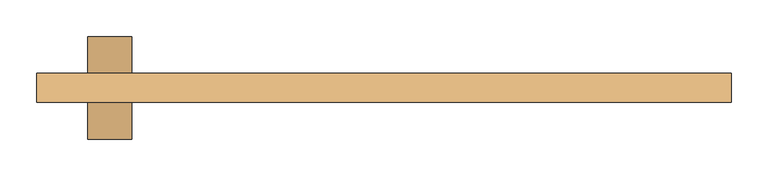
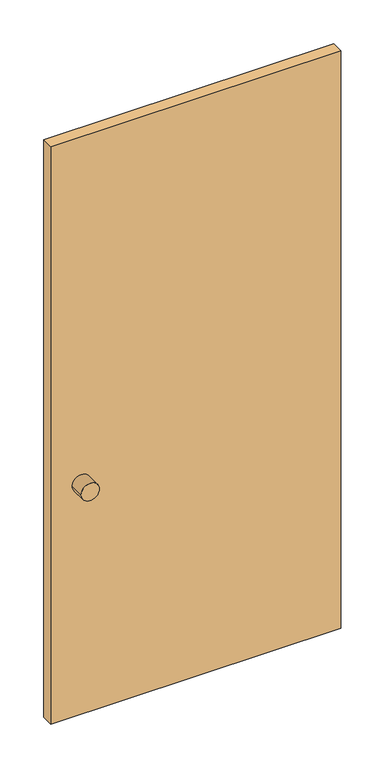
"""IFC4 building model written with IfcOpenShell, lengths in millimetres: door geometry, 営_片開き扉 : LD3 950*2000."""

import ifcopenshell
import ifcopenshell.guid

model = None  # the IFC model being written
_history = None  # IfcOwnerHistory: only IFC2X3 demands one
_inside = {}  # id of a spatial element -> (the spatial element, [elements in it])
_under = {}  # id of a project, library or spatial element -> (it, [spatial elements below it])
_declared = {}  # id of a project -> (the project, [libraries it declares])
_typed = {}  # id of a type object -> (the type object, [elements of that type])
_made_of = {}  # id of a material, layer set ... -> (it, [elements and type objects made of it])


def new_model(schema):
    """Start an empty IFC model of exactly this schema.

    Asked for "IFC4X3", IfcOpenShell would pick the latest addendum, in which some entities
    have other attributes; the version numbers below select the first issue.
    IFC2X3 requires an IfcOwnerHistory on every rooted entity: one is made here for all.
    """
    global model, _history
    if schema == "IFC4X3":
        model = ifcopenshell.file(schema_version=(4, 3, 0, 0))
    else:
        model = ifcopenshell.file(schema=schema)
    _inside.clear()
    _under.clear()
    _declared.clear()
    _typed.clear()
    _made_of.clear()
    _history = None
    if model.schema == "IFC2X3":
        org = make("IfcOrganization", Name="unknown")
        user = make(
            "IfcPersonAndOrganization",
            ThePerson=make("IfcPerson", FamilyName="unknown"),
            TheOrganization=org,
        )
        app = make(
            "IfcApplication",
            ApplicationDeveloper=org,
            Version="unknown",
            ApplicationFullName="unknown",
            ApplicationIdentifier="unknown",
        )
        _history = make(
            "IfcOwnerHistory",
            OwningUser=user,
            OwningApplication=app,
            ChangeAction="ADDED",
            CreationDate=0,
        )
    return model


def make(cls, **values):
    """One entity of the class cls with the attributes given. An attribute that is None is left unset."""
    return model.create_entity(
        cls, **{name: value for name, value in values.items() if value is not None}
    )


def rooted(cls, **values):
    """An entity with a GlobalId (a new one), such as an element, a storey or a relation."""
    return make(cls, GlobalId=ifcopenshell.guid.new(), OwnerHistory=_history, **values)


def si_unit(unit_type, name, prefix=None):
    """IfcSIUnit, for example si_unit("LENGTHUNIT", "METRE", prefix="MILLI")."""
    return make("IfcSIUnit", UnitType=unit_type, Prefix=prefix, Name=name)


def assignment(units):
    """IfcUnitAssignment: the units of a project."""
    return None if units is None else make("IfcUnitAssignment", Units=units)


def point(xyz):
    """IfcCartesianPoint."""
    return None if xyz is None else make("IfcCartesianPoint", Coordinates=xyz)


def direction(xyz):
    """IfcDirection."""
    return None if xyz is None else make("IfcDirection", DirectionRatios=xyz)


def frame(location, z_axis=None, x_axis=None):
    """IfcAxis2Placement3D, a coordinate frame: its origin and axes. An axis left out is left unset."""
    return make(
        "IfcAxis2Placement3D",
        Location=point(location),
        Axis=direction(z_axis),
        RefDirection=direction(x_axis),
    )


def frame_2d(location, x_axis=None):
    """IfcAxis2Placement2D, a coordinate frame in the plane: its origin and x axis."""
    return make(
        "IfcAxis2Placement2D", Location=point(location), RefDirection=direction(x_axis)
    )


def origin():
    """The frame at (0, 0, 0) with its axes left unset."""
    return frame((0.0, 0.0, 0.0))


def origin_with_axes():
    """The frame at (0, 0, 0) with the z axis (0, 0, 1) and the x axis (1, 0, 0) written out."""
    return frame((0.0, 0.0, 0.0), z_axis=(0.0, 0.0, 1.0), x_axis=(1.0, 0.0, 0.0))


def place(relative_to, where):
    """IfcLocalPlacement: puts the frame where relative to a parent placement (None: the world)."""
    return make(
        "IfcLocalPlacement", PlacementRelTo=relative_to, RelativePlacement=where
    )


def context(
    kind, dimensions, precision=None, world=None, true_north=None, identifier=None
):
    """IfcGeometricRepresentationContext, for example the 3D "Model" context."""
    return make(
        "IfcGeometricRepresentationContext",
        ContextIdentifier=identifier,
        ContextType=kind,
        CoordinateSpaceDimension=dimensions,
        Precision=precision,
        WorldCoordinateSystem=world,
        TrueNorth=true_north,
    )


def project(units=None, contexts=None):
    """IfcProject with its units and contexts."""
    return rooted(
        "IfcProject",
        Name="project",
        RepresentationContexts=contexts,
        UnitsInContext=assignment(units),
    )


def spatial(cls, under=None, at=None, **own):
    """A site, building, storey or space (cls), placed at a placement, below another one or the project."""
    s = rooted(cls, ObjectPlacement=at, **own)
    if under is not None:
        _under.setdefault(under.id(), (under, []))[1].append(s)
    return s


def polyline(points):
    """IfcPolyline through the points."""
    return make("IfcPolyline", Points=[point(p) for p in points])


def circle_curve(where, radius):
    """IfcCircle in the frame where."""
    return make("IfcCircle", Position=where, Radius=radius)


def trimmed(basis, trim1, trim2, sense, master):
    """IfcTrimmedCurve: the piece of a basis curve between two trims."""
    return make(
        "IfcTrimmedCurve",
        BasisCurve=basis,
        Trim1=trim1,
        Trim2=trim2,
        SenseAgreement=sense,
        MasterRepresentation=master,
    )


def segment(curve, same_sense, transition):
    """IfcCompositeCurveSegment."""
    return make(
        "IfcCompositeCurveSegment",
        Transition=transition,
        SameSense=same_sense,
        ParentCurve=curve,
    )


def composite_curve(segments, self_intersect=None):
    """IfcCompositeCurve: segments joined end to end."""
    return make("IfcCompositeCurve", Segments=segments, SelfIntersect=self_intersect)


def outline(outer, holes=None, kind="AREA"):
    """IfcArbitraryClosedProfileDef: a profile drawn as a closed curve; with holes, ...WithVoids."""
    if holes is None:
        return make("IfcArbitraryClosedProfileDef", ProfileType=kind, OuterCurve=outer)
    return make(
        "IfcArbitraryProfileDefWithVoids",
        ProfileType=kind,
        OuterCurve=outer,
        InnerCurves=holes,
    )


def extrude(swept, where, along, depth):
    """IfcExtrudedAreaSolid: the profile swept, set in the frame where, extruded along a direction by depth."""
    return make(
        "IfcExtrudedAreaSolid",
        SweptArea=swept,
        Position=where,
        ExtrudedDirection=direction(along),
        Depth=depth,
    )


def shape(context_of_items, identifier, shape_type, items):
    """IfcShapeRepresentation: the items that make up one representation, for example the "Body"."""
    return make(
        "IfcShapeRepresentation",
        ContextOfItems=context_of_items,
        RepresentationIdentifier=identifier,
        RepresentationType=shape_type,
        Items=items,
    )


def source(mapping_origin, context_of_items, identifier, shape_type, items):
    """IfcRepresentationMap: a shape defined once, which mapped items show again and again."""
    return make(
        "IfcRepresentationMap",
        MappingOrigin=mapping_origin,
        MappedRepresentation=shape(context_of_items, identifier, shape_type, items),
    )


def transform(
    local_origin,
    x_axis=None,
    y_axis=None,
    z_axis=None,
    scale=None,
    scale2=None,
    scale3=None,
    uniform=True,
):
    """IfcCartesianTransformationOperator3D, or its non-uniform kind. x_axis, y_axis, z_axis: its Axis1, 2, 3."""
    if uniform:
        return make(
            "IfcCartesianTransformationOperator3D",
            Axis1=direction(x_axis),
            Axis2=direction(y_axis),
            LocalOrigin=point(local_origin),
            Scale=scale,
            Axis3=direction(z_axis),
        )
    return make(
        "IfcCartesianTransformationOperator3DnonUniform",
        Axis1=direction(x_axis),
        Axis2=direction(y_axis),
        LocalOrigin=point(local_origin),
        Scale=scale,
        Axis3=direction(z_axis),
        Scale2=scale2,
        Scale3=scale3,
    )


def mapped(mapping_source, mapping_target):
    """IfcMappedItem: shows the shape of a source again, moved by a transform."""
    return make(
        "IfcMappedItem", MappingSource=mapping_source, MappingTarget=mapping_target
    )


def made_of(thing, what):
    """Note that an element or type object is made of a material, layer set ...; save() writes the relation."""
    if what is not None:
        _made_of.setdefault(what.id(), (what, []))[1].append(thing)
    return thing


def element(
    cls,
    number,
    at=None,
    inside=None,
    cuts=None,
    type_object=None,
    material=None,
    context=None,
    identifier="Body",
    shape_type=None,
    held_by="IfcProductDefinitionShape",
    body=None,
    shapes=None,
    **own,
):
    """One element of the class cls, such as IfcWall. Its Tag is "e" and its number.

    at: its placement. inside: the storey or other place that contains it. cuts: it is an
    opening in that element (IfcRelVoidsElement). A single representation is given by context,
    identifier, shape_type and body (its items); several are given by shapes. held_by: the class
    of the entity that holds the representations. save() writes the other relations.
    """
    e = rooted(cls, Tag="e%d" % number, ObjectPlacement=at, **own)
    if body is not None:
        shapes = [shape(context, identifier, shape_type, body)]
    if shapes is not None:
        e.Representation = make(held_by, Representations=shapes)
    if inside is not None:
        _inside.setdefault(inside.id(), (inside, []))[1].append(e)
    if cuts is not None:
        rooted(
            "IfcRelVoidsElement", RelatingBuildingElement=cuts, RelatedOpeningElement=e
        )
    if type_object is not None:
        _typed.setdefault(type_object.id(), (type_object, []))[1].append(e)
    return made_of(e, material)


def aggregate(whole, parts):
    """IfcRelAggregates: a whole, such as a stair, and the parts it consists of."""
    return rooted("IfcRelAggregates", RelatingObject=whole, RelatedObjects=parts)


def save(model, path):
    """Write the relations noted so far, then the file.

    IfcRelAggregates (storeys below a building ...), IfcRelContainedInSpatialStructure (elements
    in a storey), IfcRelDefinesByType, IfcRelAssociatesMaterial and IfcRelDeclares: one each for
    every whole, place, type object, material and project.
    """
    for whole, parts in _under.values():
        aggregate(whole, parts)
    for where, things in _inside.values():
        rooted(
            "IfcRelContainedInSpatialStructure",
            RelatedElements=things,
            RelatingStructure=where,
        )
    for kind, things in _typed.values():
        rooted("IfcRelDefinesByType", RelatedObjects=things, RelatingType=kind)
    for what, things in _made_of.values():
        rooted("IfcRelAssociatesMaterial", RelatedObjects=things, RelatingMaterial=what)
    for by, libraries in _declared.values():
        rooted("IfcRelDeclares", RelatingContext=by, RelatedDefinitions=libraries)
    model.write(path)


def door_c34db0e4(model_context):
    return source(origin(), model_context, "Body", "SweptSolid", [
        extrude(outline(composite_curve([segment(trimmed(circle_curve(frame_2d((800.0, -375.0)), 30.0), [point((800.0, -345.0))], [point((800.0, -405.0))], False, "CARTESIAN"), True, "CONTINUOUS"), segment(trimmed(circle_curve(frame_2d((800.0, -375.0)), 30.0), [point((800.0, -405.0))], [point((800.0, -345.0))], False, "CARTESIAN"), True, "CONTINUOUS")], self_intersect=False)), frame((0.0, -20.0, 0.0), z_axis=(0.0, 1.0, 0.0), x_axis=(0.0, 0.0, 1.0)), (0.0, 0.0, 1.0), 50.0),
        extrude(outline(composite_curve([segment(trimmed(circle_curve(frame_2d((800.0, -375.0)), 30.0), [point((800.0, -345.0))], [point((800.0, -405.0))], False, "CARTESIAN"), True, "CONTINUOUS"), segment(trimmed(circle_curve(frame_2d((800.0, -375.0)), 30.0), [point((800.0, -405.0))], [point((800.0, -345.0))], False, "CARTESIAN"), True, "CONTINUOUS")], self_intersect=False)), frame((0.0, 70.0, 0.0), z_axis=(0.0, 1.0, 0.0), x_axis=(0.0, 0.0, 1.0)), (0.0, 0.0, 1.0), 50.0),
        extrude(outline(polyline([(-475.0, 30.0), (-475.0, 70.0), (475.0, 70.0), (475.0, 30.0), (-475.0, 30.0)])), origin_with_axes(), (0.0, 0.0, 1.0), 2000.0),
    ])


if __name__ == "__main__":
    model = new_model("IFC4")
    model_context = context("Model", 3, world=origin())
    ifc_project = project(units=[si_unit("LENGTHUNIT", "METRE", prefix="MILLI")], contexts=[model_context])
    site = spatial("IfcSite", under=ifc_project)
    building = spatial("IfcBuilding", under=site)
    placement = place(None, origin())
    door_shape = door_c34db0e4(model_context)
    element("IfcDoor", 1, ObjectType="営_片開き扉 : LD3 950*2000", at=placement, inside=building, context=model_context, shape_type="MappedRepresentation", body=[
        mapped(door_shape, transform((0.0, 0.0, 0.0), x_axis=(1.0, 0.0, 0.0), y_axis=(0.0, 1.0, 0.0), z_axis=(0.0, 0.0, 1.0))),
    ])
    save(model, "model.ifc")
